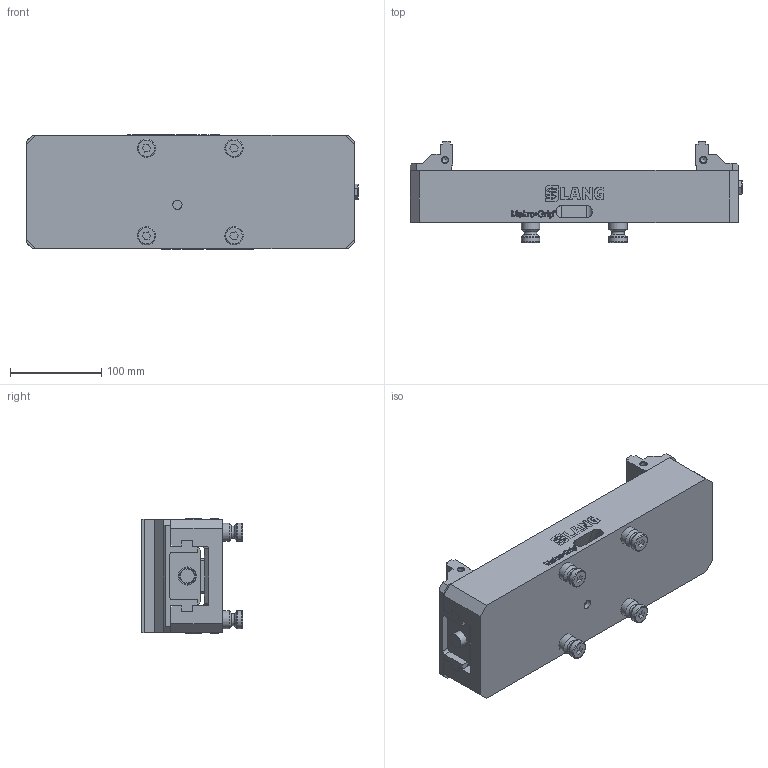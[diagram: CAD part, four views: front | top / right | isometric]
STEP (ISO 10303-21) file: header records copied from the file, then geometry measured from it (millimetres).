
FILE_DESCRIPTION (( 'STEP AP214' ), '1' );
FILE_NAME ('48355-125.STEP', '2020-02-07T14:16:48', ( '' ), ( '' ), 'SwSTEP 2.0', 'SolidWorks 2019', '' );
FILE_SCHEMA (( 'AUTOMOTIVE_DESIGN' ));
Length unit declared in the file: millimetre
Products named in the file (3): Makro-Grip_48355-125; 48125-2520; 48355-125
Assembly tree (3 placements, depth 2):
  48355-125
    Makro-Grip_48355-125
    48125-2520  x2
Bounding box: 364.14 x 111.01 x 125.24 mm (x, y, z)
Volume: 2025582 mm3; surface area: 290023.4 mm2
Topology: 50 solids, 50 shells, 910 faces, 2312 edges, 1519 vertices
Faces by surface type: plane 625, bspline 192, cylinder 54, cone 27, torus 12
Full cylindrical faces by diameter (mm): 6.8 x4, 8.5 x4, 10 x1, 16 x8, 16.5 x1, 20 x12
Entity records: 42620 total; most frequent: CARTESIAN_POINT 13835, ORIENTED_EDGE 4148, DIRECTION 3093, EDGE_CURVE 2074, VECTOR 1567, LINE 1567, VERTEX_POINT 1401, EDGE_LOOP 959
